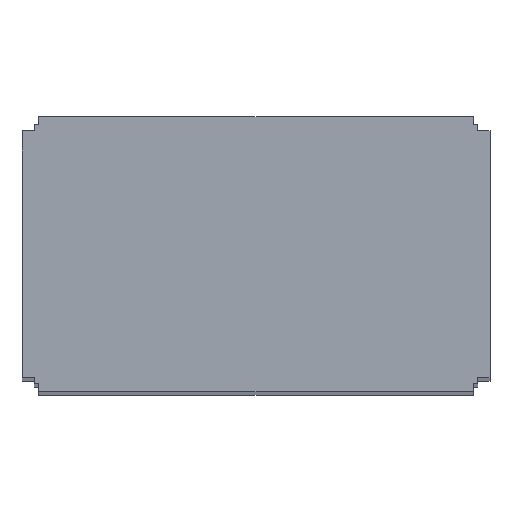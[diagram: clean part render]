
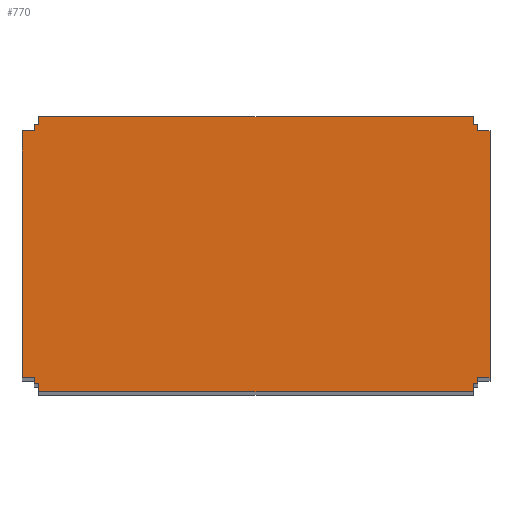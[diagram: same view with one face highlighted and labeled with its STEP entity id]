
A CAD part, top view. The second image highlights one B-rep face of the part: STEP entity #770.
In plain terms, the highlighted planar face has unit normal (0, 0, 1).
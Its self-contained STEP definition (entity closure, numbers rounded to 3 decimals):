
#29 = VERTEX_POINT ( 'NONE', #496 ) ;
#30 = CARTESIAN_POINT ( 'NONE',  ( 107.95, -68.25, 500. ) ) ;
#31 = CARTESIAN_POINT ( 'NONE',  ( -110.25, 64.25, 500. ) ) ;
#41 = VERTEX_POINT ( 'NONE', #183 ) ;
#42 = CARTESIAN_POINT ( 'NONE',  ( -116.25, -61.25, 500. ) ) ;
#49 = DIRECTION ( 'NONE',  ( 1., 0., 0. ) ) ;
#80 = LINE ( 'NONE', #920, #295 ) ;
#84 = CARTESIAN_POINT ( 'NONE',  ( -116.25, -61.25, 500. ) ) ;
#92 = LINE ( 'NONE', #872, #1128 ) ;
#97 = ORIENTED_EDGE ( 'NONE', *, *, #1005, .T. ) ;
#104 = DIRECTION ( 'NONE',  ( 0., -1., 0. ) ) ;
#106 = VECTOR ( 'NONE', #658, 1000. ) ;
#109 = EDGE_CURVE ( 'NONE', #886, #130, #577, .T. ) ;
#116 = ORIENTED_EDGE ( 'NONE', *, *, #400, .T. ) ;
#120 = CARTESIAN_POINT ( 'NONE',  ( -110.25, 61.25, 500. ) ) ;
#130 = VERTEX_POINT ( 'NONE', #306 ) ;
#131 = DIRECTION ( 'NONE',  ( 0., 1., 0. ) ) ;
#134 = CARTESIAN_POINT ( 'NONE',  ( 107.95, -64.25, 500. ) ) ;
#135 = VECTOR ( 'NONE', #104, 1000. ) ;
#144 = ORIENTED_EDGE ( 'NONE', *, *, #274, .T. ) ;
#148 = DIRECTION ( 'NONE',  ( 0., -1., 0. ) ) ;
#162 = VECTOR ( 'NONE', #223, 1000. ) ;
#173 = CARTESIAN_POINT ( 'NONE',  ( -107.95, 68.25, 500. ) ) ;
#183 = CARTESIAN_POINT ( 'NONE',  ( 107.95, 64.25, 500. ) ) ;
#195 = CARTESIAN_POINT ( 'NONE',  ( 110.25, 64.25, 500. ) ) ;
#197 = CARTESIAN_POINT ( 'NONE',  ( -107.95, -64.25, 500. ) ) ;
#199 = DIRECTION ( 'NONE',  ( 0., 1., 0. ) ) ;
#219 = EDGE_CURVE ( 'NONE', #41, #801, #985, .T. ) ;
#223 = DIRECTION ( 'NONE',  ( 1., 0., 0. ) ) ;
#225 = LINE ( 'NONE', #1007, #723 ) ;
#227 = VECTOR ( 'NONE', #148, 1000. ) ;
#244 = LINE ( 'NONE', #334, #227 ) ;
#250 = CARTESIAN_POINT ( 'NONE',  ( 110.25, 61.25, 500. ) ) ;
#254 = VERTEX_POINT ( 'NONE', #31 ) ;
#263 = LINE ( 'NONE', #502, #459 ) ;
#274 = EDGE_CURVE ( 'NONE', #1003, #463, #263, .T. ) ;
#285 = DIRECTION ( 'NONE',  ( 0., -1., 0. ) ) ;
#292 = LINE ( 'NONE', #173, #1047 ) ;
#295 = VECTOR ( 'NONE', #324, 1000. ) ;
#306 = CARTESIAN_POINT ( 'NONE',  ( -107.95, -68.25, 500. ) ) ;
#312 = LINE ( 'NONE', #604, #415 ) ;
#324 = DIRECTION ( 'NONE',  ( -1., 0., 0. ) ) ;
#334 = CARTESIAN_POINT ( 'NONE',  ( -110.25, -64.25, 500. ) ) ;
#353 = EDGE_CURVE ( 'NONE', #765, #368, #80, .T. ) ;
#368 = VERTEX_POINT ( 'NONE', #250 ) ;
#379 = CARTESIAN_POINT ( 'NONE',  ( 107.95, 68.25, 500. ) ) ;
#400 = EDGE_CURVE ( 'NONE', #629, #816, #777, .T. ) ;
#402 = LINE ( 'NONE', #1261, #1046 ) ;
#410 = ORIENTED_EDGE ( 'NONE', *, *, #618, .T. ) ;
#415 = VECTOR ( 'NONE', #199, 1000. ) ;
#419 = CARTESIAN_POINT ( 'NONE',  ( -116.25, 61.25, 500. ) ) ;
#425 = VERTEX_POINT ( 'NONE', #642 ) ;
#427 = EDGE_CURVE ( 'NONE', #1096, #718, #244, .T. ) ;
#430 = EDGE_CURVE ( 'NONE', #463, #612, #402, .T. ) ;
#438 = CARTESIAN_POINT ( 'NONE',  ( -107.95, 64.25, 500. ) ) ;
#439 = ORIENTED_EDGE ( 'NONE', *, *, #600, .T. ) ;
#459 = VECTOR ( 'NONE', #131, 1000. ) ;
#463 = VERTEX_POINT ( 'NONE', #134 ) ;
#478 = ORIENTED_EDGE ( 'NONE', *, *, #624, .T. ) ;
#481 = EDGE_CURVE ( 'NONE', #827, #254, #897, .T. ) ;
#482 = ORIENTED_EDGE ( 'NONE', *, *, #1188, .T. ) ;
#485 = EDGE_CURVE ( 'NONE', #612, #510, #1273, .T. ) ;
#487 = VECTOR ( 'NONE', #900, 1000. ) ;
#496 = CARTESIAN_POINT ( 'NONE',  ( -110.25, 61.25, 500. ) ) ;
#502 = CARTESIAN_POINT ( 'NONE',  ( 107.95, -64.25, 500. ) ) ;
#510 = VERTEX_POINT ( 'NONE', #1184 ) ;
#511 = CARTESIAN_POINT ( 'NONE',  ( 116.25, -61.25, 500. ) ) ;
#524 = ORIENTED_EDGE ( 'NONE', *, *, #984, .T. ) ;
#535 = CARTESIAN_POINT ( 'NONE',  ( -110.25, -61.25, 500. ) ) ;
#538 = DIRECTION ( 'NONE',  ( 0., -1., 0. ) ) ;
#542 = LINE ( 'NONE', #755, #576 ) ;
#564 = EDGE_CURVE ( 'NONE', #130, #1003, #914, .T. ) ;
#566 = DIRECTION ( 'NONE',  ( -1., 0., 0. ) ) ;
#576 = VECTOR ( 'NONE', #867, 1000. ) ;
#577 = LINE ( 'NONE', #197, #815 ) ;
#585 = ORIENTED_EDGE ( 'NONE', *, *, #219, .T. ) ;
#600 = EDGE_CURVE ( 'NONE', #254, #29, #1173, .T. ) ;
#602 = CARTESIAN_POINT ( 'NONE',  ( 107.95, 64.25, 500. ) ) ;
#604 = CARTESIAN_POINT ( 'NONE',  ( 116.25, -61.25, 500. ) ) ;
#610 = CARTESIAN_POINT ( 'NONE',  ( 110.25, -64.25, 500. ) ) ;
#612 = VERTEX_POINT ( 'NONE', #610 ) ;
#618 = EDGE_CURVE ( 'NONE', #368, #425, #1271, .T. ) ;
#622 = ORIENTED_EDGE ( 'NONE', *, *, #109, .T. ) ;
#624 = EDGE_CURVE ( 'NONE', #718, #886, #225, .T. ) ;
#629 = VERTEX_POINT ( 'NONE', #419 ) ;
#642 = CARTESIAN_POINT ( 'NONE',  ( 110.25, 64.25, 500. ) ) ;
#648 = DIRECTION ( 'NONE',  ( -1., 0., 0. ) ) ;
#658 = DIRECTION ( 'NONE',  ( 0., 1., 0. ) ) ;
#659 = CARTESIAN_POINT ( 'NONE',  ( -107.95, 64.25, 500. ) ) ;
#664 = VECTOR ( 'NONE', #538, 1000. ) ;
#686 = ORIENTED_EDGE ( 'NONE', *, *, #910, .T. ) ;
#699 = VECTOR ( 'NONE', #1221, 1000. ) ;
#718 = VERTEX_POINT ( 'NONE', #754 ) ;
#723 = VECTOR ( 'NONE', #1107, 1000. ) ;
#728 = CARTESIAN_POINT ( 'NONE',  ( -110.25, 64.25, 500. ) ) ;
#741 = LINE ( 'NONE', #120, #1177 ) ;
#754 = CARTESIAN_POINT ( 'NONE',  ( -110.25, -64.25, 500. ) ) ;
#755 = CARTESIAN_POINT ( 'NONE',  ( 110.25, -61.25, 500. ) ) ;
#763 = ORIENTED_EDGE ( 'NONE', *, *, #1249, .T. ) ;
#765 = VERTEX_POINT ( 'NONE', #1163 ) ;
#770 = ADVANCED_FACE ( 'NONE', ( #1192 ), #1252, .T. ) ;
#777 = LINE ( 'NONE', #42, #664 ) ;
#784 = ORIENTED_EDGE ( 'NONE', *, *, #826, .T. ) ;
#786 = DIRECTION ( 'NONE',  ( 0., -1., 0. ) ) ;
#791 = VECTOR ( 'NONE', #648, 1000. ) ;
#798 = ORIENTED_EDGE ( 'NONE', *, *, #1234, .T. ) ;
#801 = VERTEX_POINT ( 'NONE', #379 ) ;
#815 = VECTOR ( 'NONE', #786, 1000. ) ;
#816 = VERTEX_POINT ( 'NONE', #84 ) ;
#826 = EDGE_CURVE ( 'NONE', #801, #1118, #292, .T. ) ;
#827 = VERTEX_POINT ( 'NONE', #659 ) ;
#830 = ORIENTED_EDGE ( 'NONE', *, *, #353, .T. ) ;
#852 = CARTESIAN_POINT ( 'NONE',  ( -107.95, 68.25, 500. ) ) ;
#867 = DIRECTION ( 'NONE',  ( 1., 0., 0. ) ) ;
#872 = CARTESIAN_POINT ( 'NONE',  ( -107.95, 64.25, 500. ) ) ;
#879 = ORIENTED_EDGE ( 'NONE', *, *, #430, .T. ) ;
#886 = VERTEX_POINT ( 'NONE', #964 ) ;
#890 = ORIENTED_EDGE ( 'NONE', *, *, #564, .T. ) ;
#897 = LINE ( 'NONE', #728, #950 ) ;
#900 = DIRECTION ( 'NONE',  ( 1., 0., 0. ) ) ;
#910 = EDGE_CURVE ( 'NONE', #510, #999, #542, .T. ) ;
#914 = LINE ( 'NONE', #1018, #487 ) ;
#916 = DIRECTION ( 'NONE',  ( -1., 0., 0. ) ) ;
#920 = CARTESIAN_POINT ( 'NONE',  ( 110.25, 61.25, 500. ) ) ;
#926 = VECTOR ( 'NONE', #1104, 1000. ) ;
#942 = AXIS2_PLACEMENT_3D ( 'NONE', #438, #1045, #1152 ) ;
#950 = VECTOR ( 'NONE', #566, 1000. ) ;
#964 = CARTESIAN_POINT ( 'NONE',  ( -107.95, -64.25, 500. ) ) ;
#984 = EDGE_CURVE ( 'NONE', #29, #629, #741, .T. ) ;
#985 = LINE ( 'NONE', #602, #699 ) ;
#999 = VERTEX_POINT ( 'NONE', #511 ) ;
#1003 = VERTEX_POINT ( 'NONE', #30 ) ;
#1004 = CARTESIAN_POINT ( 'NONE',  ( -110.25, -61.25, 500. ) ) ;
#1005 = EDGE_CURVE ( 'NONE', #999, #765, #312, .T. ) ;
#1007 = CARTESIAN_POINT ( 'NONE',  ( -110.25, -64.25, 500. ) ) ;
#1018 = CARTESIAN_POINT ( 'NONE',  ( -107.95, -68.25, 500. ) ) ;
#1037 = EDGE_LOOP ( 'NONE', ( #1088, #439, #524, #116, #482, #1186, #478, #622, #890, #144, #879, #1168, #686, #97, #830, #410, #763, #585, #784, #798 ) ) ;
#1045 = DIRECTION ( 'NONE',  ( 0., 0., 1. ) ) ;
#1046 = VECTOR ( 'NONE', #49, 1000. ) ;
#1047 = VECTOR ( 'NONE', #1275, 1000. ) ;
#1049 = CARTESIAN_POINT ( 'NONE',  ( 110.25, -64.25, 500. ) ) ;
#1088 = ORIENTED_EDGE ( 'NONE', *, *, #481, .T. ) ;
#1096 = VERTEX_POINT ( 'NONE', #1004 ) ;
#1104 = DIRECTION ( 'NONE',  ( 0., 1., 0. ) ) ;
#1107 = DIRECTION ( 'NONE',  ( 1., 0., 0. ) ) ;
#1118 = VERTEX_POINT ( 'NONE', #852 ) ;
#1128 = VECTOR ( 'NONE', #285, 1000. ) ;
#1152 = DIRECTION ( 'NONE',  ( 1., 0., 0. ) ) ;
#1160 = LINE ( 'NONE', #535, #162 ) ;
#1163 = CARTESIAN_POINT ( 'NONE',  ( 116.25, 61.25, 500. ) ) ;
#1168 = ORIENTED_EDGE ( 'NONE', *, *, #485, .T. ) ;
#1173 = LINE ( 'NONE', #1206, #135 ) ;
#1177 = VECTOR ( 'NONE', #916, 1000. ) ;
#1184 = CARTESIAN_POINT ( 'NONE',  ( 110.25, -61.25, 500. ) ) ;
#1186 = ORIENTED_EDGE ( 'NONE', *, *, #427, .T. ) ;
#1188 = EDGE_CURVE ( 'NONE', #816, #1096, #1160, .T. ) ;
#1192 = FACE_OUTER_BOUND ( 'NONE', #1037, .T. ) ;
#1206 = CARTESIAN_POINT ( 'NONE',  ( -110.25, 64.25, 500. ) ) ;
#1221 = DIRECTION ( 'NONE',  ( 0., 1., 0. ) ) ;
#1234 = EDGE_CURVE ( 'NONE', #1118, #827, #92, .T. ) ;
#1249 = EDGE_CURVE ( 'NONE', #425, #41, #1272, .T. ) ;
#1252 = PLANE ( 'NONE',  #942 ) ;
#1260 = CARTESIAN_POINT ( 'NONE',  ( 110.25, 64.25, 500. ) ) ;
#1261 = CARTESIAN_POINT ( 'NONE',  ( 110.25, -64.25, 500. ) ) ;
#1271 = LINE ( 'NONE', #195, #926 ) ;
#1272 = LINE ( 'NONE', #1260, #791 ) ;
#1273 = LINE ( 'NONE', #1049, #106 ) ;
#1275 = DIRECTION ( 'NONE',  ( -1., 0., 0. ) ) ;
